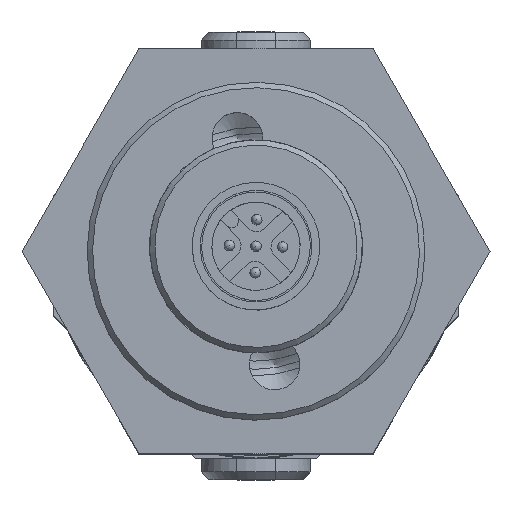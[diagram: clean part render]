
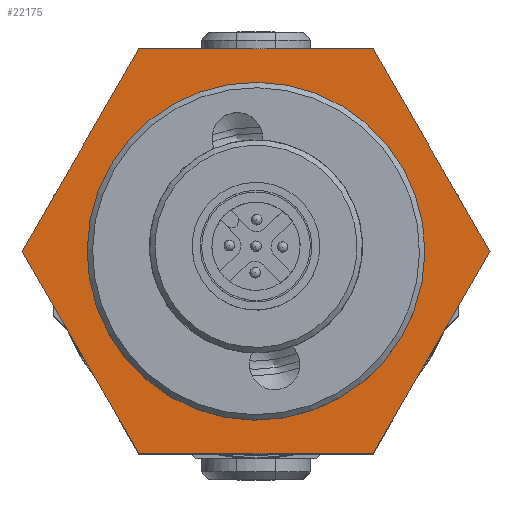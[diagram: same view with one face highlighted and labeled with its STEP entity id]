
A CAD part, top view. The second image highlights one B-rep face of the part: STEP entity #22175.
In plain terms, the highlighted planar face has unit normal (0, 0, 1).
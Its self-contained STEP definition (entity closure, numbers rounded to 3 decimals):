
#1715=LINE($,#32773,#2976);
#1719=LINE($,#32780,#2980);
#1722=LINE($,#32786,#2983);
#1725=LINE($,#32792,#2986);
#1728=LINE($,#32798,#2989);
#1730=LINE($,#32801,#2991);
#2976=VECTOR($,#26644,21.997);
#2980=VECTOR($,#26650,21.997);
#2983=VECTOR($,#26655,21.997);
#2986=VECTOR($,#26660,21.997);
#2989=VECTOR($,#26665,21.997);
#2991=VECTOR($,#26669,21.997);
#4210=PLANE($,#23868);
#4892=FACE_BOUND($,#6986,.T.);
#5470=FACE_OUTER_BOUND($,#6985,.T.);
#6985=EDGE_LOOP($,(#15355,#15356,#15357,#15358,#15359,#15360));
#6986=EDGE_LOOP($,(#15361));
#8499=CIRCLE($,#23739,15.875);
#9351=VERTEX_POINT($,#32179);
#9433=VERTEX_POINT($,#32770);
#9434=VERTEX_POINT($,#32772);
#9436=VERTEX_POINT($,#32778);
#9438=VERTEX_POINT($,#32784);
#9440=VERTEX_POINT($,#32790);
#9442=VERTEX_POINT($,#32796);
#11585=EDGE_CURVE($,#9351,#9351,#8499,.T.);
#11706=EDGE_CURVE($,#9434,#9433,#1715,.T.);
#11710=EDGE_CURVE($,#9433,#9436,#1719,.T.);
#11713=EDGE_CURVE($,#9436,#9438,#1722,.T.);
#11716=EDGE_CURVE($,#9438,#9440,#1725,.T.);
#11719=EDGE_CURVE($,#9440,#9442,#1728,.T.);
#11721=EDGE_CURVE($,#9442,#9434,#1730,.T.);
#15355=ORIENTED_EDGE($,*,*,#11706,.T.);
#15356=ORIENTED_EDGE($,*,*,#11710,.T.);
#15357=ORIENTED_EDGE($,*,*,#11713,.T.);
#15358=ORIENTED_EDGE($,*,*,#11716,.T.);
#15359=ORIENTED_EDGE($,*,*,#11719,.T.);
#15360=ORIENTED_EDGE($,*,*,#11721,.T.);
#15361=ORIENTED_EDGE($,*,*,#11585,.F.);
#22175=ADVANCED_FACE($,(#5470,#4892),#4210,.T.);
#23739=AXIS2_PLACEMENT_3D($,#32180,#26392,#26393);
#23868=AXIS2_PLACEMENT_3D($,#32861,#26702,#26703);
#26392=DIRECTION('center_axis',(0.,0.,
1.));
#26393=DIRECTION('ref_axis',(-0.162,0.987,0.));
#26644=DIRECTION($,(-1.,0.,0.));
#26650=DIRECTION($,(-0.5,-0.866,0.));
#26655=DIRECTION($,(0.5,-0.866,0.));
#26660=DIRECTION($,(1.,0.,0.));
#26665=DIRECTION($,(0.5,0.866,0.));
#26669=DIRECTION($,(-0.5,0.866,0.));
#26702=DIRECTION('center_axis',(0.,0.,
1.));
#26703=DIRECTION('ref_axis',(0.5,-0.866,0.));
#32179=CARTESIAN_POINT('',(2.573,-15.665,76.25));
#32180=CARTESIAN_POINT('Origin',(0.,0.,
76.25));
#32770=CARTESIAN_POINT('',(-10.999,19.05,76.25));
#32772=CARTESIAN_POINT('',(10.999,19.05,76.25));
#32773=CARTESIAN_POINT($,(-10.999,19.05,76.25));
#32778=CARTESIAN_POINT('',(-21.997,0.,76.25));
#32780=CARTESIAN_POINT($,(-21.997,0.,76.25));
#32784=CARTESIAN_POINT('',(-10.999,-19.05,76.25));
#32786=CARTESIAN_POINT($,(-10.999,-19.05,76.25));
#32790=CARTESIAN_POINT('',(10.999,-19.05,76.25));
#32792=CARTESIAN_POINT($,(10.999,-19.05,76.25));
#32796=CARTESIAN_POINT('',(21.997,0.,76.25));
#32798=CARTESIAN_POINT($,(21.997,0.,76.25));
#32801=CARTESIAN_POINT($,(10.999,19.05,76.25));
#32861=CARTESIAN_POINT('Origin',(0.,0.,
76.25));
